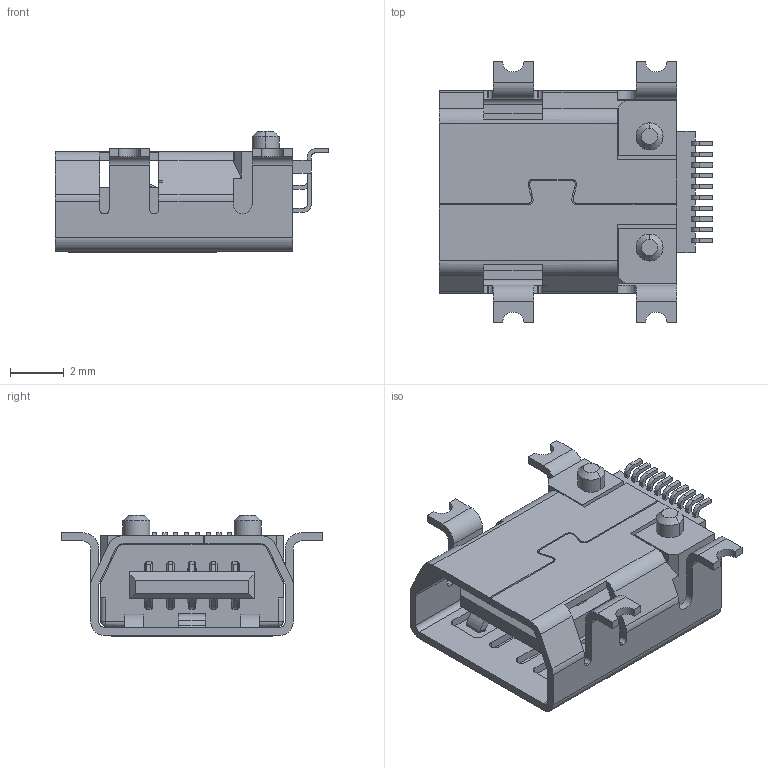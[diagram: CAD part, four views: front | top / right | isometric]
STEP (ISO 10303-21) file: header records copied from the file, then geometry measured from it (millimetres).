
FILE_DESCRIPTION((''),'2;1');
FILE_NAME('ASM0001_ASM_ASM','2018-10-10T',('Administrator'),(''),'PRO/ENGINEER BY PARAMETRIC TECHNOLOGY CORPORATION, 2010280','PRO/ENGINEER BY PARAMETRIC TECHNOLOGY CORPORATION, 2010280','');
FILE_SCHEMA(('CONFIG_CONTROL_DESIGN'));
Length unit declared in the file: millimetre
Products named in the file (3): MINI-USB_10P_1; MYLAR_1; ASM0001_ASM_ASM
Assembly tree (2 placements, depth 2):
  ASM0001_ASM_ASM
    MINI-USB_10P_1
    MYLAR_1
Bounding box: 10.15 x 9.7 x 4.5 mm (x, y, z)
Volume: 140.6 mm3; surface area: 573.3 mm2
Topology: 2 solids, 2 shells, 597 faces, 1699 edges, 1084 vertices
Faces by surface type: plane 395, cylinder 152, bspline 44, cone 4, sphere 2
Entity records: 20716 total; most frequent: CARTESIAN_POINT 5080, ORIENTED_EDGE 3398, DIRECTION 3025, EDGE_CURVE 1699, VECTOR 1341, LINE 1341, VERTEX_POINT 1084, AXIS2_PLACEMENT_3D 842
